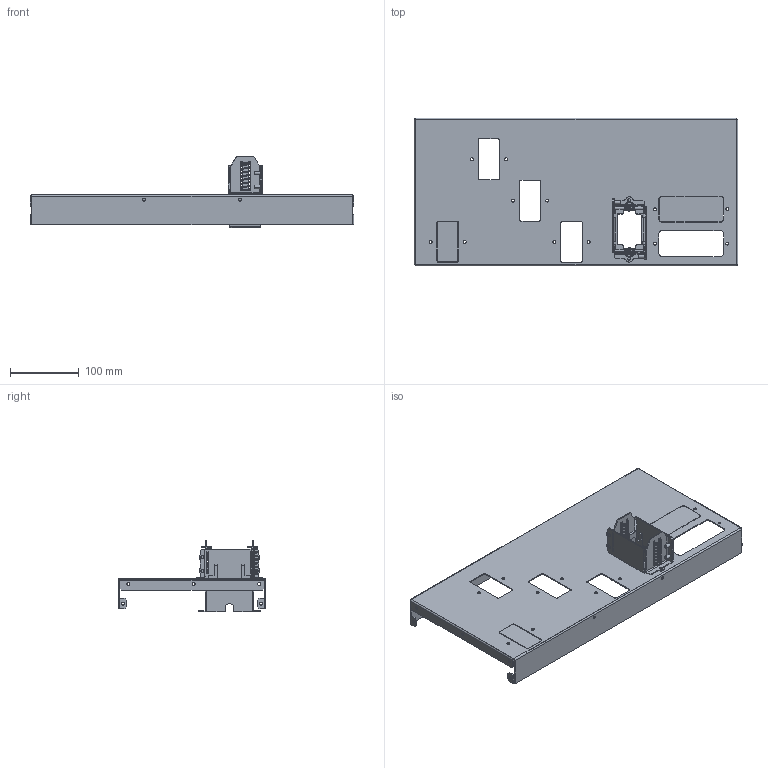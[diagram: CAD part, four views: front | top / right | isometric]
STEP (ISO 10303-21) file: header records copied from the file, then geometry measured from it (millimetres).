
FILE_DESCRIPTION(('CAx-IF Rec.Pracs.---Model Styling and Organization---1.2---2011-12-15','CAx-IF Rec.Pracs.---Geometric and Assembly Validation Properties---4.1---2014-06-16','CAx-IF Rec.Pracs.---PMI Polyline Presentation---2.0---2013-05-24'),'2;1');
FILE_NAME('R5M2W5M1BR61.stp','2021-05-05T12:29:10+03:00',(''),(''),'STEP Interface 4.4 by CT CoreTechnologie','3D_Evolution4.4 by CT CoreTechnologie','');
FILE_SCHEMA(('AUTOMOTIVE_DESIGN { 1 0 10303 214 1 1 1 1 }'));
Length unit declared in the file: millimetre
Products named in the file (8): R5M2W5M1BR61; RB.1506.00.00.0_-04; RB.1567.00.00.0_-00; RB.1765.00.00.0 ÑÁ; RB.1569.00.00.1_-00; RB.1571.00.00.0_In prestressed condition - 40 mm; M5x8-DIN7500C_stright; RB.1570.00.00.0
Assembly tree (13 placements, depth 3):
  R5M2W5M1BR61
    RB.1506.00.00.0_-04
    RB.1567.00.00.0_-00
    RB.1765.00.00.0 ÑÁ
      RB.1569.00.00.1_-00  x2
      RB.1571.00.00.0_In prestressed condition - 40 mm  x2
      M5x8-DIN7500C_stright  x4
      RB.1570.00.00.0  x2
Bounding box: 470 x 215 x 103.8 mm (x, y, z)
Surface area: 336041.9 mm2 (no closed solid volume)
Topology: 0 solids, 21 shells, 698 faces, 1859 edges, 1203 vertices
Faces by surface type: plane 466, cylinder 204, bspline 28
Entity records: 18004 total; most frequent: CARTESIAN_POINT 4368, ORIENTED_EDGE 2738, DIRECTION 2705, EDGE_CURVE 1369, VECTOR 1021, LINE 1021, VERTEX_POINT 885, AXIS2_PLACEMENT_3D 842
